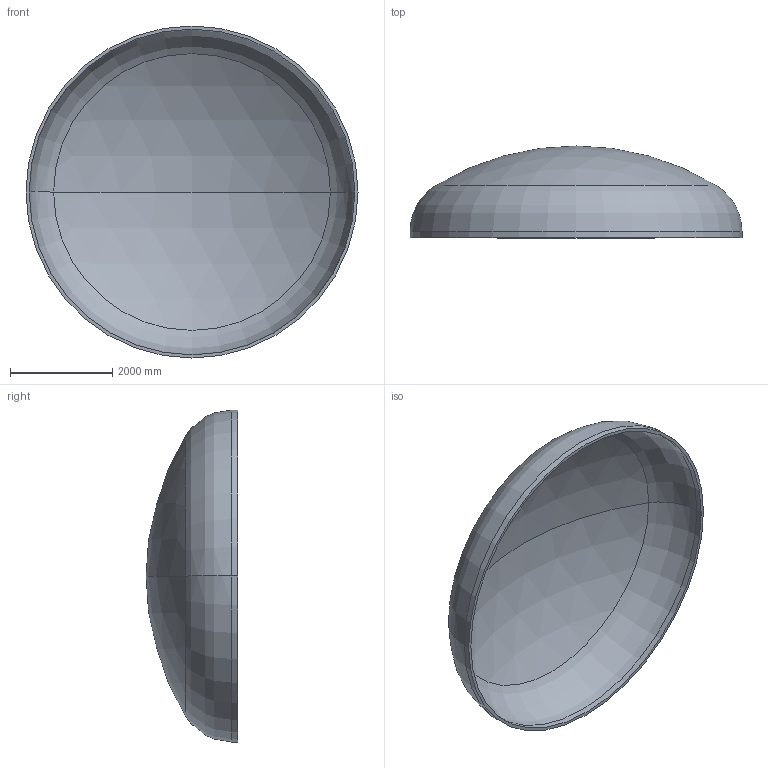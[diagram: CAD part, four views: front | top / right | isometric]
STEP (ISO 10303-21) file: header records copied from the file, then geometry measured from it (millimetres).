
FILE_DESCRIPTION (( 'STEP AP203' ), '1' );
FILE_NAME ('DIN 28013 Korbbogenform_-_Boden DIN 28013 - 6500 x 120 - I - s=62.step', '2016-07-04T10:42:47', ( '' ), ( '' ), 'SwSTEP 2.0', 'SolidWorks 2013', '' );
FILE_SCHEMA (( 'CONFIG_CONTROL_DESIGN' ));
Length unit declared in the file: millimetre
Products named in the file (1): DIN 28013 Korbbogenform_-_Boden DIN 28013 - 6500 x 120 - I - s=62
Bounding box: 6500 x 1796.94 x 6500 mm (x, y, z)
Volume: 2963613022.1 mm3; surface area: 96862419.8 mm2
Topology: 1 solids, 1 shells, 13 faces, 24 edges, 14 vertices
Faces by surface type: torus 4, cylinder 4, sphere 4, plane 1
Entity records: 407 total; most frequent: DIRECTION 72, CARTESIAN_POINT 52, ORIENTED_EDGE 48, AXIS2_PLACEMENT_3D 34, EDGE_CURVE 24, CIRCLE 20, EDGE_LOOP 14, VERTEX_POINT 14
